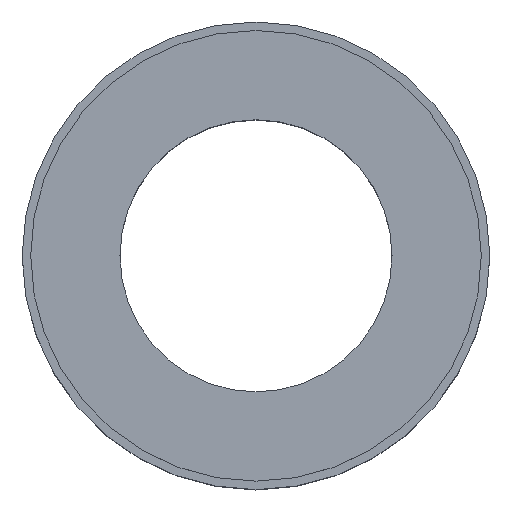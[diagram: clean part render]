
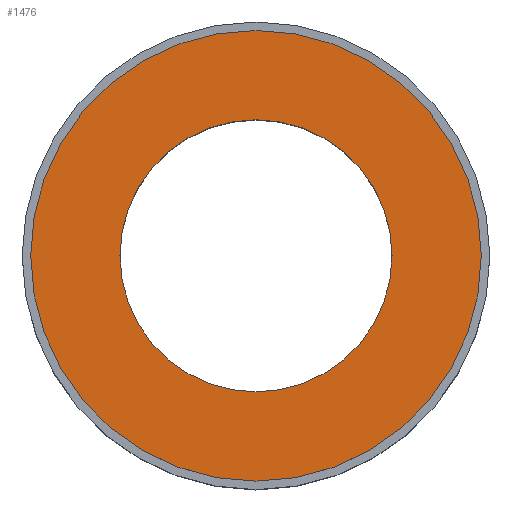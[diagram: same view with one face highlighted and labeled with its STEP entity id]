
A CAD part, top view. The second image highlights one B-rep face of the part: STEP entity #1476.
In plain terms, the highlighted planar face has unit normal (0, 0, 1).
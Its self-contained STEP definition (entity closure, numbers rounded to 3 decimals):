
#18 = AXIS2_PLACEMENT_3D ( 'NONE', #1657, #1061, #1273 ) ;
#35 = AXIS2_PLACEMENT_3D ( 'NONE', #1021, #1590, #643 ) ;
#132 = CARTESIAN_POINT ( 'NONE',  ( -16., 0., 13. ) ) ;
#177 = EDGE_CURVE ( 'NONE', #298, #602, #326, .T. ) ;
#187 = CARTESIAN_POINT ( 'NONE',  ( 0., 0., 13. ) ) ;
#235 = CIRCLE ( 'NONE', #18, 16. ) ;
#298 = VERTEX_POINT ( 'NONE', #2346 ) ;
#306 = CARTESIAN_POINT ( 'NONE',  ( 16., 0., 13. ) ) ;
#326 = CIRCLE ( 'NONE', #35, 26.5 ) ;
#336 = VERTEX_POINT ( 'NONE', #306 ) ;
#338 = EDGE_CURVE ( 'NONE', #1631, #336, #235, .T. ) ;
#368 = DIRECTION ( 'NONE',  ( 1., 0., 0. ) ) ;
#562 = ORIENTED_EDGE ( 'NONE', *, *, #1614, .T. ) ;
#602 = VERTEX_POINT ( 'NONE', #2465 ) ;
#625 = DIRECTION ( 'NONE',  ( 0., 0., -1. ) ) ;
#643 = DIRECTION ( 'NONE',  ( 1., 0., 0. ) ) ;
#835 = DIRECTION ( 'NONE',  ( -1., 0., 0. ) ) ;
#883 = DIRECTION ( 'NONE',  ( 1., 0., 0. ) ) ;
#913 = ORIENTED_EDGE ( 'NONE', *, *, #177, .T. ) ;
#953 = DIRECTION ( 'NONE',  ( 0., 0., 1. ) ) ;
#1021 = CARTESIAN_POINT ( 'NONE',  ( 0., 0., 13. ) ) ;
#1061 = DIRECTION ( 'NONE',  ( 0., 0., -1. ) ) ;
#1218 = CIRCLE ( 'NONE', #2124, 26.5 ) ;
#1240 = EDGE_LOOP ( 'NONE', ( #2446, #2135 ) ) ;
#1273 = DIRECTION ( 'NONE',  ( -1., 0., 0. ) ) ;
#1340 = CIRCLE ( 'NONE', #1479, 16. ) ;
#1375 = EDGE_LOOP ( 'NONE', ( #562, #913 ) ) ;
#1476 = ADVANCED_FACE ( 'NONE', ( #1848, #2197 ), #2401, .T. ) ;
#1479 = AXIS2_PLACEMENT_3D ( 'NONE', #1796, #625, #835 ) ;
#1590 = DIRECTION ( 'NONE',  ( 0., 0., 1. ) ) ;
#1614 = EDGE_CURVE ( 'NONE', #602, #298, #1218, .T. ) ;
#1631 = VERTEX_POINT ( 'NONE', #1703 ) ;
#1657 = CARTESIAN_POINT ( 'NONE',  ( 0., 0., 13. ) ) ;
#1703 = CARTESIAN_POINT ( 'NONE',  ( -16., 0., 13. ) ) ;
#1791 = EDGE_CURVE ( 'NONE', #336, #1631, #1340, .T. ) ;
#1796 = CARTESIAN_POINT ( 'NONE',  ( 0., 0., 13. ) ) ;
#1848 = FACE_BOUND ( 'NONE', #1240, .T. ) ;
#2124 = AXIS2_PLACEMENT_3D ( 'NONE', #187, #953, #368 ) ;
#2135 = ORIENTED_EDGE ( 'NONE', *, *, #1791, .T. ) ;
#2176 = AXIS2_PLACEMENT_3D ( 'NONE', #132, #2238, #883 ) ;
#2197 = FACE_OUTER_BOUND ( 'NONE', #1375, .T. ) ;
#2238 = DIRECTION ( 'NONE',  ( 0., 0., 1. ) ) ;
#2346 = CARTESIAN_POINT ( 'NONE',  ( -26.5, 0., 13. ) ) ;
#2401 = PLANE ( 'NONE',  #2176 ) ;
#2446 = ORIENTED_EDGE ( 'NONE', *, *, #338, .T. ) ;
#2465 = CARTESIAN_POINT ( 'NONE',  ( 26.5, 0., 13. ) ) ;
